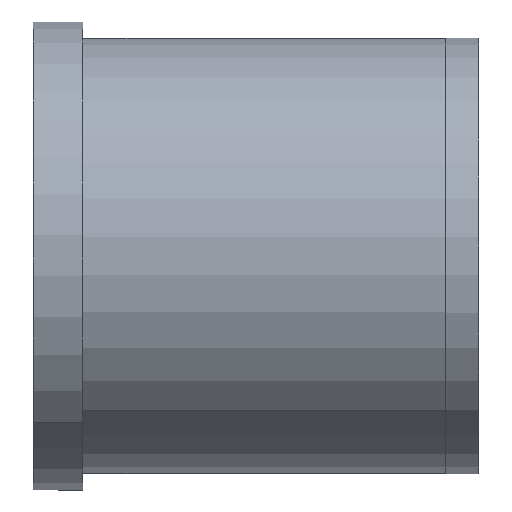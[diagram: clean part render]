
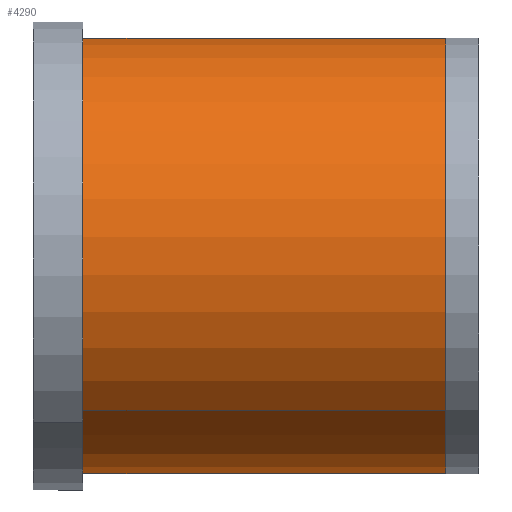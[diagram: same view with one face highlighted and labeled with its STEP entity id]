
A CAD part, front view. The second image highlights one B-rep face of the part: STEP entity #4290.
In plain terms, the highlighted cylindrical face has radius 13.25 mm (diameter 26.5 mm), a full revolution.
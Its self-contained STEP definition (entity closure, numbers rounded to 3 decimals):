
#3750=CARTESIAN_POINT('',(42.,-13.528,-1.892));
#3760=VERTEX_POINT('',#3750);
#3790=CARTESIAN_POINT('',(42.,-0.278,-1.887));
#3800=DIRECTION('',(-1.,0.,0.));
#3810=DIRECTION('',(0.,0.,1.));
#3820=AXIS2_PLACEMENT_3D('',#3790,#3800,#3810);
#3830=CIRCLE('',#3820,13.25);
#3840=CARTESIAN_POINT('',(42.,-13.528,-1.882));
#3850=VERTEX_POINT('',#3840);
#3860=EDGE_CURVE('',#3850,#3760,#3830,.T.);
#3980=CARTESIAN_POINT('',(53.,-0.278,-1.887));
#3990=DIRECTION('',(-1.,0.,0.));
#4000=DIRECTION('',(0.,0.,-1.));
#4010=AXIS2_PLACEMENT_3D('',#3980,#3990,#4000);
#4020=CYLINDRICAL_SURFACE('',#4010,13.25);
#4030=CARTESIAN_POINT('',(53.,-13.528,-1.882));
#4040=DIRECTION('',(-1.,0.,0.));
#4050=VECTOR('',#4040,1.);
#4060=LINE('',#4030,#4050);
#4070=CARTESIAN_POINT('',(64.,-13.528,-1.882));
#4080=VERTEX_POINT('',#4070);
#4090=EDGE_CURVE('',#4080,#3850,#4060,.T.);
#4100=ORIENTED_EDGE('',*,*,#4090,.F.);
#4110=ORIENTED_EDGE('',*,*,#3860,.F.);
#4120=CARTESIAN_POINT('',(53.,-13.528,-1.892));
#4130=DIRECTION('',(-1.,0.,0.));
#4140=VECTOR('',#4130,1.);
#4150=LINE('',#4120,#4140);
#4160=CARTESIAN_POINT('',(64.,-13.528,-1.892));
#4170=VERTEX_POINT('',#4160);
#4180=EDGE_CURVE('',#4170,#3760,#4150,.T.);
#4190=ORIENTED_EDGE('',*,*,#4180,.T.);
#4200=CARTESIAN_POINT('',(64.,-0.278,-1.887));
#4210=DIRECTION('',(-1.,0.,0.));
#4220=DIRECTION('',(0.,0.,1.));
#4230=AXIS2_PLACEMENT_3D('',#4200,#4210,#4220);
#4240=CIRCLE('',#4230,13.25);
#4250=EDGE_CURVE('',#4080,#4170,#4240,.T.);
#4260=ORIENTED_EDGE('',*,*,#4250,.T.);
#4270=EDGE_LOOP('',(#4260,#4190,#4110,#4100));
#4280=FACE_OUTER_BOUND('',#4270,.T.);
#4290=ADVANCED_FACE('',(#4280),#4020,.T.);
